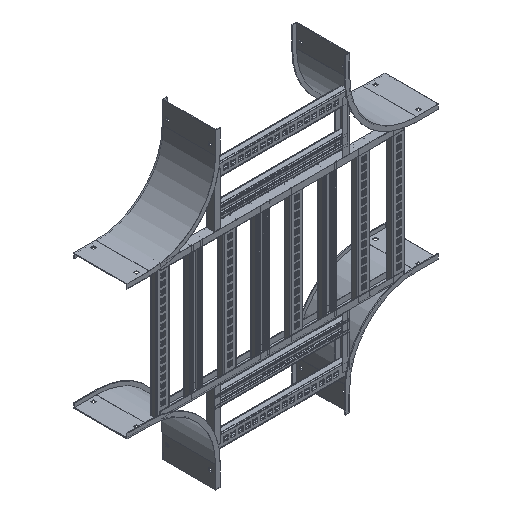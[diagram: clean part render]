
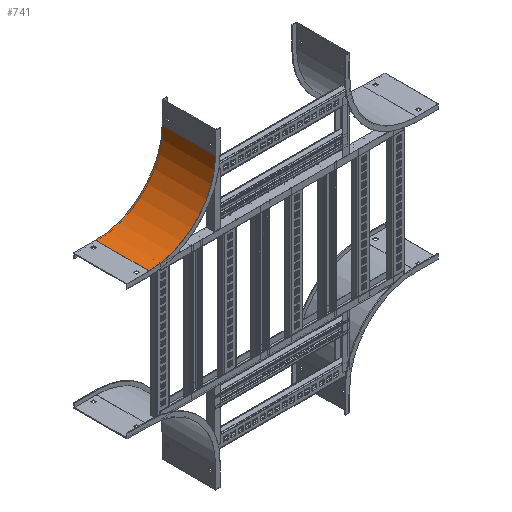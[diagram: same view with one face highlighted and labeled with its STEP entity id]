
A CAD part, isometric view. The second image highlights one B-rep face of the part: STEP entity #741.
In plain terms, the highlighted cylindrical face has radius 228.6 mm (diameter 457.2 mm), a partial arc.
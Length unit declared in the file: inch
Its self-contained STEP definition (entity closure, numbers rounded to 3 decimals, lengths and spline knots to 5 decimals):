
#156=CARTESIAN_POINT('',(0.,-9.,3.));
#157=DIRECTION('',(1.,0.,0.));
#158=DIRECTION('',(0.,1.,0.));
#159=AXIS2_PLACEMENT_3D('',#156,#157,#158);
#165=DIRECTION('',(1.,0.,0.));
#166=VECTOR('',#165,7.24);
#167=CARTESIAN_POINT('',(-7.24,0.,3.));
#168=LINE('',#167,#166);
#169=CARTESIAN_POINT('',(-7.24,-9.,3.));
#170=DIRECTION('',(1.,0.,0.));
#171=DIRECTION('',(0.,1.,0.));
#172=AXIS2_PLACEMENT_3D('',#169,#170,#171);
#174=DIRECTION('',(1.,0.,0.));
#175=VECTOR('',#174,7.24);
#176=CARTESIAN_POINT('',(-7.24,-9.,12.));
#177=LINE('',#176,#175);
#409=CARTESIAN_POINT('',(-7.24,0.,3.));
#410=CARTESIAN_POINT('',(0.,0.,3.));
#411=VERTEX_POINT('',#409);
#412=VERTEX_POINT('',#410);
#425=CARTESIAN_POINT('',(-7.24,-9.,12.));
#426=CARTESIAN_POINT('',(0.,-9.,12.));
#427=VERTEX_POINT('',#425);
#428=VERTEX_POINT('',#426);
#729=CARTESIAN_POINT('',(-1.,-9.,3.));
#730=DIRECTION('',(1.,0.,0.));
#731=DIRECTION('',(0.,-1.,0.));
#732=AXIS2_PLACEMENT_3D('',#729,#730,#731);
#733=CYLINDRICAL_SURFACE('',#732,9.);
#734=ORIENTED_EDGE('',*,*,#553,.F.);
#735=ORIENTED_EDGE('',*,*,#596,.T.);
#737=ORIENTED_EDGE('',*,*,#736,.T.);
#738=ORIENTED_EDGE('',*,*,#715,.F.);
#739=EDGE_LOOP('',(#734,#735,#737,#738));
#740=FACE_OUTER_BOUND('',#739,.F.);
#741=ADVANCED_FACE('',(#740),#733,.F.);
#160=CIRCLE('',#159,9.);
#173=CIRCLE('',#172,9.);
#553=EDGE_CURVE('',#411,#412,#168,.T.);
#596=EDGE_CURVE('',#411,#427,#173,.T.);
#715=EDGE_CURVE('',#412,#428,#160,.T.);
#736=EDGE_CURVE('',#427,#428,#177,.T.);
